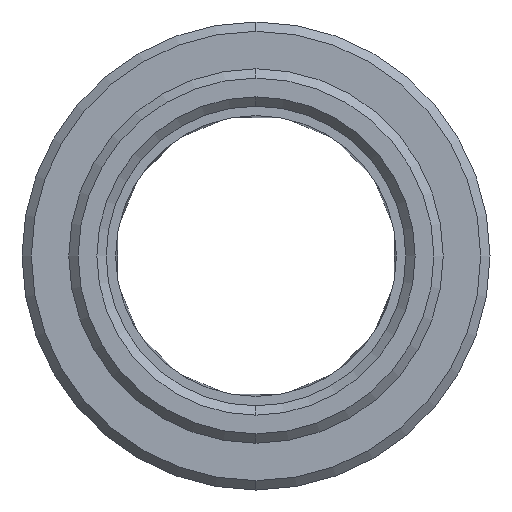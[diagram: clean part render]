
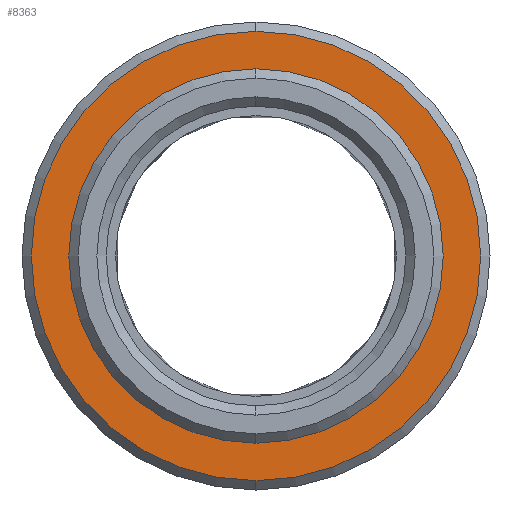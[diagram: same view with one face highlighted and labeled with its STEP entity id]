
A CAD part, left-side view. The second image highlights one B-rep face of the part: STEP entity #8363.
In plain terms, the highlighted planar face has unit normal (-1, 0, 0).
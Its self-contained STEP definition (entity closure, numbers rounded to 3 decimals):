
#3231=CARTESIAN_POINT('',(0.,0.,0.));
#3232=DIRECTION('',(1.,0.,0.));
#3233=DIRECTION('',(0.,0.,1.));
#3234=AXIS2_PLACEMENT_3D('',#3231,#3232,#3233);
#3236=CARTESIAN_POINT('',(0.,0.,0.));
#3237=DIRECTION('',(-1.,0.,0.));
#3238=DIRECTION('',(0.,0.,1.));
#3239=AXIS2_PLACEMENT_3D('',#3236,#3237,#3238);
#3241=CARTESIAN_POINT('',(0.,0.,0.));
#3242=DIRECTION('',(1.,0.,0.));
#3243=DIRECTION('',(0.,0.,1.));
#3244=AXIS2_PLACEMENT_3D('',#3241,#3242,#3243);
#3246=CARTESIAN_POINT('',(0.,0.,
0.));
#3247=DIRECTION('',(1.,0.,0.));
#3248=DIRECTION('',(0.,0.,-1.));
#3249=AXIS2_PLACEMENT_3D('',#3246,#3247,#3248);
#6838=CARTESIAN_POINT('',(0.,0.,10.));
#6839=CARTESIAN_POINT('',(0.,0.,-10.));
#6840=VERTEX_POINT('',#6838);
#6841=VERTEX_POINT('',#6839);
#6862=CARTESIAN_POINT('',(0.,0.,12.));
#6863=CARTESIAN_POINT('',(0.,0.,-12.));
#6864=VERTEX_POINT('',#6862);
#6865=VERTEX_POINT('',#6863);
#8348=CARTESIAN_POINT('',(0.,0.,0.));
#8349=DIRECTION('',(1.,0.,0.));
#8350=DIRECTION('',(0.,0.,1.));
#8351=AXIS2_PLACEMENT_3D('',#8348,#8349,#8350);
#8352=PLANE('',#8351);
#8354=ORIENTED_EDGE('',*,*,#8353,.T.);
#8356=ORIENTED_EDGE('',*,*,#8355,.T.);
#8357=EDGE_LOOP('',(#8354,#8356));
#8358=FACE_OUTER_BOUND('',#8357,.F.);
#8359=ORIENTED_EDGE('',*,*,#8330,.F.);
#8360=ORIENTED_EDGE('',*,*,#8315,.T.);
#8361=EDGE_LOOP('',(#8359,#8360));
#8362=FACE_BOUND('',#8361,.F.);
#8363=ADVANCED_FACE('',(#8358,#8362),#8352,.F.);
#3235=CIRCLE('',#3234,10.);
#3240=CIRCLE('',#3239,10.);
#3245=CIRCLE('',#3244,12.);
#3250=CIRCLE('',#3249,12.);
#8315=EDGE_CURVE('',#6840,#6841,#3240,.T.);
#8330=EDGE_CURVE('',#6840,#6841,#3235,.T.);
#8353=EDGE_CURVE('',#6864,#6865,#3245,.T.);
#8355=EDGE_CURVE('',#6865,#6864,#3250,.T.);
